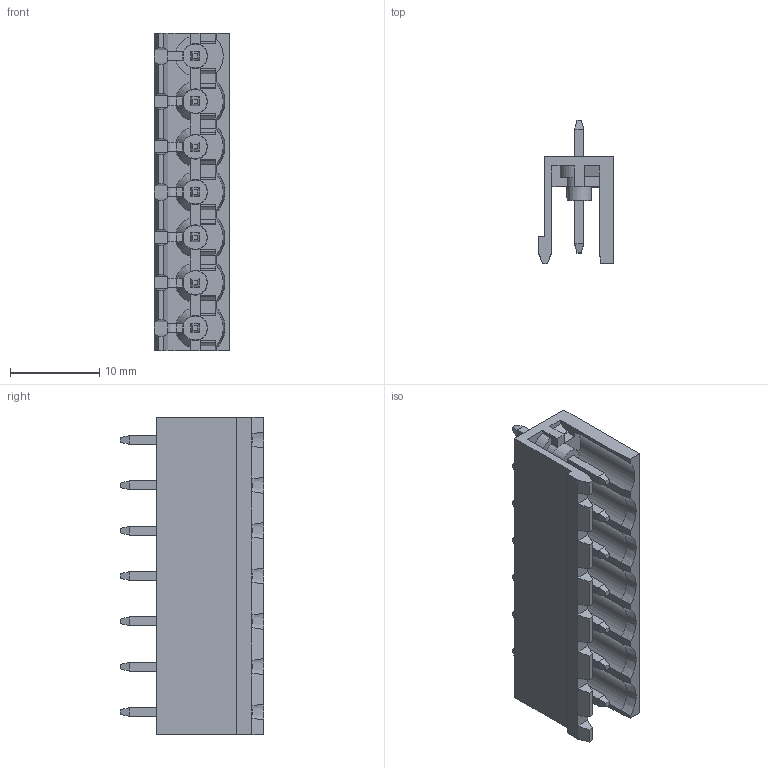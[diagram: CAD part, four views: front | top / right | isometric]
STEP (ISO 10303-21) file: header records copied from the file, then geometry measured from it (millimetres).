
FILE_DESCRIPTION (( 'STEP AP203' ), '1' );
FILE_NAME ('BR8MC1-07.STEP', '2020-03-18T02:42:47', ( '' ), ( '' ), 'SwSTEP 2.0', 'SolidWorks 2019', '' );
FILE_SCHEMA (( 'CONFIG_CONTROL_DESIGN' ));
Length unit declared in the file: millimetre
Products named in the file (1): BR8MC1-07
Bounding box: 8.5 x 16.03 x 35.56 mm (x, y, z)
Volume: 1349.2 mm3; surface area: 3030.2 mm2
Topology: 1 solids, 1 shells, 600 faces, 1566 edges, 968 vertices
Faces by surface type: plane 518, cylinder 36, cone 32, sphere 14
Entity records: 17888 total; most frequent: CARTESIAN_POINT 3387, ORIENTED_EDGE 3076, DIRECTION 2817, EDGE_CURVE 1538, VECTOR 1321, LINE 1321, VERTEX_POINT 954, AXIS2_PLACEMENT_3D 748
